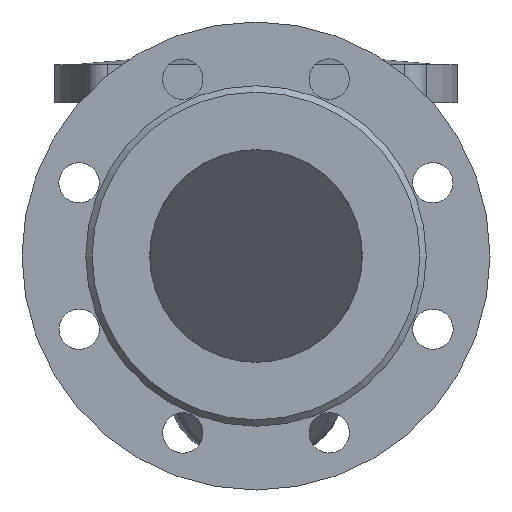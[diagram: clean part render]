
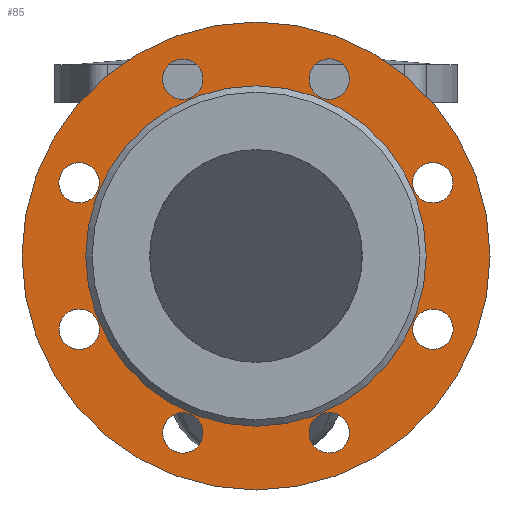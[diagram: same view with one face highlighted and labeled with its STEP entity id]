
A CAD part, front view. The second image highlights one B-rep face of the part: STEP entity #85.
In plain terms, the highlighted planar face has unit normal (0, -1, 0).
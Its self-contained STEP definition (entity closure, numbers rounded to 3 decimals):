
#85=ADVANCED_FACE('',(#687,#689,#691,#693,#695,#697,#699,#701,#703,#705),#707,.T.);
#687=FACE_BOUND('',#688,.T.);
#688=EDGE_LOOP('',(#2462));
#689=FACE_BOUND('',#690,.T.);
#690=EDGE_LOOP('',(#2463));
#691=FACE_BOUND('',#692,.T.);
#692=EDGE_LOOP('',(#2464));
#693=FACE_BOUND('',#694,.T.);
#694=EDGE_LOOP('',(#2465));
#695=FACE_BOUND('',#696,.T.);
#696=EDGE_LOOP('',(#2466));
#697=FACE_BOUND('',#698,.T.);
#698=EDGE_LOOP('',(#2467));
#699=FACE_BOUND('',#700,.T.);
#700=EDGE_LOOP('',(#2468));
#701=FACE_BOUND('',#702,.T.);
#702=EDGE_LOOP('',(#2469));
#703=FACE_BOUND('',#704,.T.);
#704=EDGE_LOOP('',(#2470));
#705=FACE_BOUND('',#706,.T.);
#706=EDGE_LOOP('',(#2471));
#707=PLANE('',#708);
#708=AXIS2_PLACEMENT_3D('',#709,#710,#711);
#709=CARTESIAN_POINT('',(0.,-143.,0.));
#710=DIRECTION('',(0.,-1.,0.));
#711=DIRECTION('',(0.,0.,1.));
#2462=ORIENTED_EDGE('',*,*,#2730,.F.);
#2463=ORIENTED_EDGE('',*,*,#2731,.T.);
#2464=ORIENTED_EDGE('',*,*,#2732,.T.);
#2465=ORIENTED_EDGE('',*,*,#2733,.T.);
#2466=ORIENTED_EDGE('',*,*,#2734,.T.);
#2467=ORIENTED_EDGE('',*,*,#2735,.T.);
#2468=ORIENTED_EDGE('',*,*,#2736,.T.);
#2469=ORIENTED_EDGE('',*,*,#2737,.T.);
#2470=ORIENTED_EDGE('',*,*,#2729,.T.);
#2471=ORIENTED_EDGE('',*,*,#2738,.T.);
#2729=EDGE_CURVE('',#2863,#2863,#2864,.T.);
#2730=EDGE_CURVE('',#2865,#2865,#2866,.T.);
#2731=EDGE_CURVE('',#2867,#2867,#2868,.F.);
#2732=EDGE_CURVE('',#2869,#2869,#2870,.F.);
#2733=EDGE_CURVE('',#2871,#2871,#2872,.F.);
#2734=EDGE_CURVE('',#2873,#2873,#2874,.F.);
#2735=EDGE_CURVE('',#2875,#2875,#2876,.F.);
#2736=EDGE_CURVE('',#2877,#2877,#2878,.F.);
#2737=EDGE_CURVE('',#2879,#2879,#2880,.F.);
#2738=EDGE_CURVE('',#2881,#2881,#2882,.F.);
#2863=VERTEX_POINT('',#3102);
#2864=CIRCLE('',#3103,80.);
#2865=VERTEX_POINT('',#3107);
#2866=CIRCLE('',#3108,110.);
#2867=VERTEX_POINT('',#3112);
#2868=CIRCLE('',#3113,9.5);
#2869=VERTEX_POINT('',#3117);
#2870=CIRCLE('',#3118,9.5);
#2871=VERTEX_POINT('',#3122);
#2872=CIRCLE('',#3123,9.5);
#2873=VERTEX_POINT('',#3127);
#2874=CIRCLE('',#3128,9.5);
#2875=VERTEX_POINT('',#3132);
#2876=CIRCLE('',#3133,9.5);
#2877=VERTEX_POINT('',#3137);
#2878=CIRCLE('',#3138,9.5);
#2879=VERTEX_POINT('',#3142);
#2880=CIRCLE('',#3143,9.5);
#2881=VERTEX_POINT('',#3147);
#2882=CIRCLE('',#3148,9.5);
#3102=CARTESIAN_POINT('',(0.,-143.,80.));
#3103=AXIS2_PLACEMENT_3D('',#3104,#3105,#3106);
#3104=CARTESIAN_POINT('',(0.,-143.,0.));
#3105=DIRECTION('',(0.,1.,0.));
#3106=DIRECTION('',(0.,0.,1.));
#3107=CARTESIAN_POINT('',(0.,-143.,110.));
#3108=AXIS2_PLACEMENT_3D('',#3109,#3110,#3111);
#3109=CARTESIAN_POINT('',(0.,-143.,0.));
#3110=DIRECTION('',(0.,1.,0.));
#3111=DIRECTION('',(0.,0.,1.));
#3112=CARTESIAN_POINT('',(41.159,-143.,76.432));
#3113=AXIS2_PLACEMENT_3D('',#3114,#3115,#3116);
#3114=CARTESIAN_POINT('',(34.442,-143.,83.149));
#3115=DIRECTION('',(0.,-1.,0.));
#3116=DIRECTION('',(0.707,0.,-0.707));
#3117=CARTESIAN_POINT('',(83.149,-143.,24.942));
#3118=AXIS2_PLACEMENT_3D('',#3119,#3120,#3121);
#3119=CARTESIAN_POINT('',(83.149,-143.,34.442));
#3120=DIRECTION('',(0.,-1.,0.));
#3121=DIRECTION('',(0.,0.,-1.));
#3122=CARTESIAN_POINT('',(76.432,-143.,-41.159));
#3123=AXIS2_PLACEMENT_3D('',#3124,#3125,#3126);
#3124=CARTESIAN_POINT('',(83.149,-143.,-34.442));
#3125=DIRECTION('',(0.,-1.,0.));
#3126=DIRECTION('',(-0.707,0.,-0.707));
#3127=CARTESIAN_POINT('',(24.942,-143.,-83.149));
#3128=AXIS2_PLACEMENT_3D('',#3129,#3130,#3131);
#3129=CARTESIAN_POINT('',(34.442,-143.,-83.149));
#3130=DIRECTION('',(0.,-1.,0.));
#3131=DIRECTION('',(-1.,0.,0.));
#3132=CARTESIAN_POINT('',(-41.159,-143.,-76.432));
#3133=AXIS2_PLACEMENT_3D('',#3134,#3135,#3136);
#3134=CARTESIAN_POINT('',(-34.442,-143.,-83.149));
#3135=DIRECTION('',(0.,-1.,0.));
#3136=DIRECTION('',(-0.707,0.,0.707));
#3137=CARTESIAN_POINT('',(-83.149,-143.,-24.942));
#3138=AXIS2_PLACEMENT_3D('',#3139,#3140,#3141);
#3139=CARTESIAN_POINT('',(-83.149,-143.,-34.442));
#3140=DIRECTION('',(0.,-1.,0.));
#3141=DIRECTION('',(0.,0.,1.));
#3142=CARTESIAN_POINT('',(-76.432,-143.,41.159));
#3143=AXIS2_PLACEMENT_3D('',#3144,#3145,#3146);
#3144=CARTESIAN_POINT('',(-83.149,-143.,34.442));
#3145=DIRECTION('',(0.,-1.,0.));
#3146=DIRECTION('',(0.707,0.,0.707));
#3147=CARTESIAN_POINT('',(-24.942,-143.,83.149));
#3148=AXIS2_PLACEMENT_3D('',#3149,#3150,#3151);
#3149=CARTESIAN_POINT('',(-34.442,-143.,83.149));
#3150=DIRECTION('',(0.,-1.,0.));
#3151=DIRECTION('',(1.,0.,0.));
